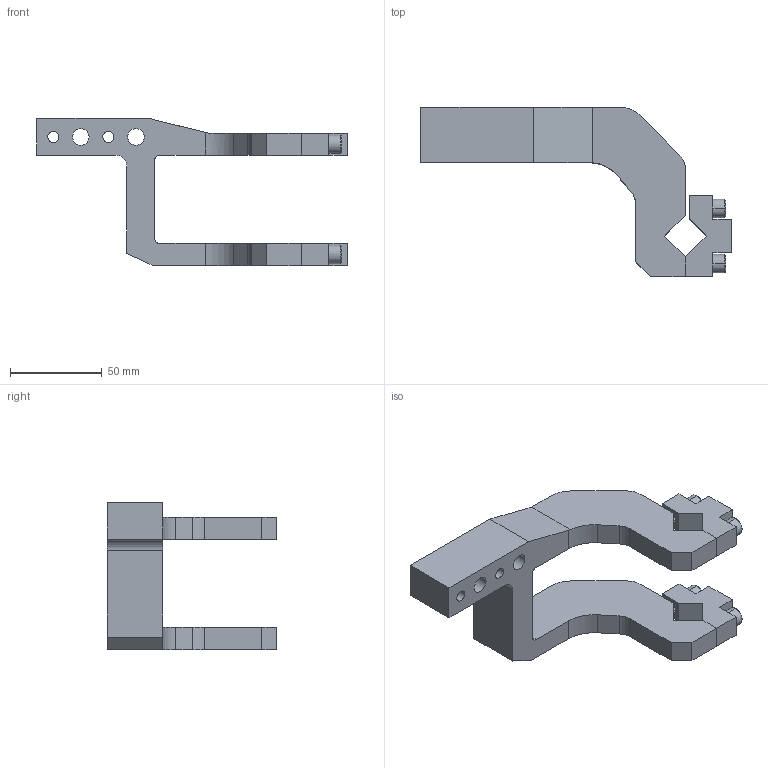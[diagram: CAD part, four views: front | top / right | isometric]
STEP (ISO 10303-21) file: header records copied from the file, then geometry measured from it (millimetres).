
FILE_DESCRIPTION((''),'2;1');
FILE_NAME('S:\Matthew\Step Files\XM Clamp Arms\XJ50-CAL-02.stp','2006-06-28T08:10:14',('Matthew'),(''),'Autodesk Inventor 8','Autodesk Inventor 8','');
FILE_SCHEMA(('AUTOMOTIVE_DESIGN { 1 0 10303 214 1 1 1 1 }'));
Length unit declared in the file: millimetre
Products named in the file (4): XJ50-CAL-02; XJ50-CAL-021; XJ50-CAL-022; XJ50-CAL-023
Assembly tree (3 placements, depth 2):
  XJ50-CAL-02
    XJ50-CAL-021
    XJ50-CAL-022
    XJ50-CAL-023
Bounding box: 169 x 92 x 80 mm (x, y, z)
Volume: 164651.6 mm3; surface area: 45673.1 mm2
Topology: 3 solids, 3 shells, 154 faces, 392 edges, 252 vertices
Faces by surface type: plane 62, bspline 52, cylinder 24, cone 16
Entity records: 4963 total; most frequent: CARTESIAN_POINT 1247, ORIENTED_EDGE 768, DIRECTION 701, EDGE_CURVE 384, VECTOR 285, LINE 285, VERTEX_POINT 252, AXIS2_PLACEMENT_3D 208
